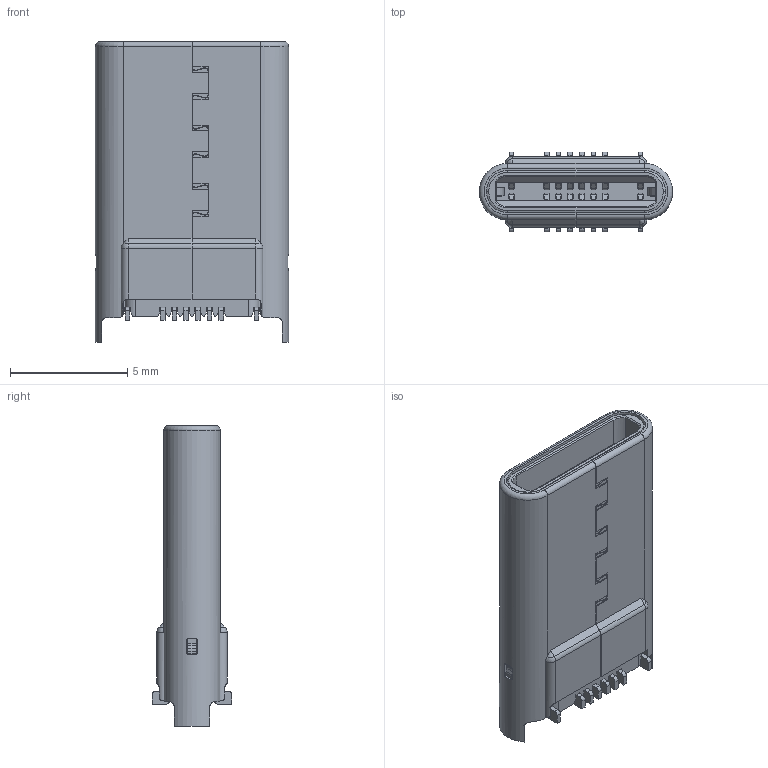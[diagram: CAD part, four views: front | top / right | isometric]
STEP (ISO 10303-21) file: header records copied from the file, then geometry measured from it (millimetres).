
FILE_DESCRIPTION((''),'2;1');
FILE_NAME('ASM0002_ASM','2025-03-27T',('jhf'),(''),'PRO/ENGINEER BY PARAMETRIC TECHNOLOGY CORPORATION, 2010370','PRO/ENGINEER BY PARAMETRIC TECHNOLOGY CORPORATION, 2010370','');
FILE_SCHEMA(('CONFIG_CONTROL_DESIGN','SHAPE_APPEARANCE_LAYERS_GROUPS'));
Products named in the file (2): _ASM0001; ASM0002_ASM
Assembly tree (1 placements, depth 2):
  ASM0002_ASM
    _ASM0001
Bounding box: 8.25 x 3.41 x 12.85 mm (x, y, z)
Volume: 163.9 mm3; surface area: 1265.3 mm2
Topology: 1 solids, 1 shells, 1314 faces, 4566 edges, 3091 vertices
Faces by surface type: plane 710, cylinder 576, cone 12, torus 8, sphere 4, bspline 4
Entity records: 59946 total; most frequent: CARTESIAN_POINT 9695, ORIENTED_EDGE 9108, DIRECTION 8467, EDGE_CURVE 4554, VERTEX_POINT 3091, VECTOR 2999, LINE 2999, AXIS2_PLACEMENT_3D 2734
